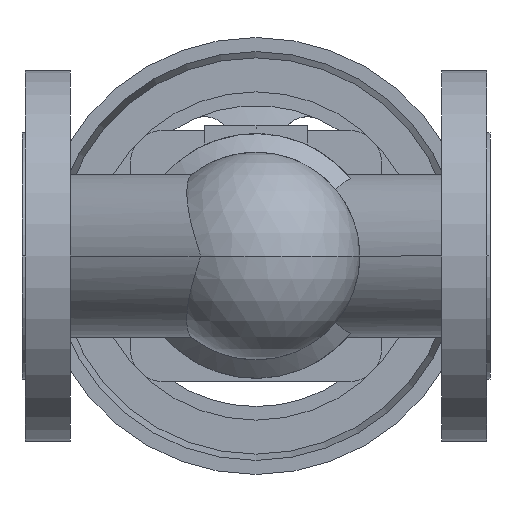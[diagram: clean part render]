
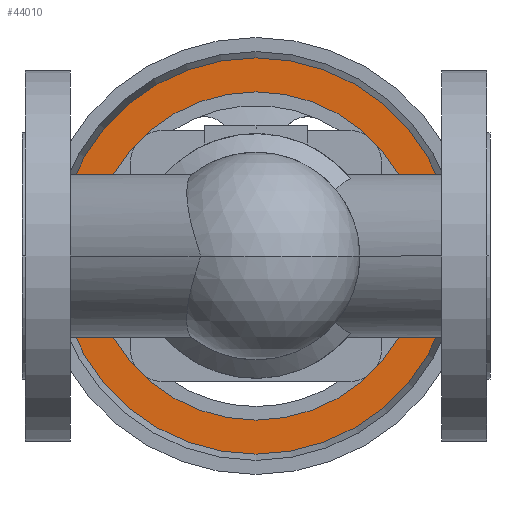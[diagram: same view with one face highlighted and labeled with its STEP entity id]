
A CAD part, front view. The second image highlights one B-rep face of the part: STEP entity #44010.
In plain terms, the highlighted planar face has unit normal (0, -1, 0).
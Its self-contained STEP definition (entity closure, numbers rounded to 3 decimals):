
#43460=CARTESIAN_POINT('',(18.462,379.5,0.));
#43470=VERTEX_POINT('',#43460);
#43550=CARTESIAN_POINT('',(222.538,379.5,0.))
;
#43560=VERTEX_POINT('',#43550);
#43590=CARTESIAN_POINT('',(120.5,379.5,0.));
#43600=DIRECTION('',(0.,1.,0.));
#43610=DIRECTION('',(-1.,0.,0.));
#43620=AXIS2_PLACEMENT_3D('',#43590,#43600,#43610);
#43630=CIRCLE('',#43620,102.038);
#43640=EDGE_CURVE('',#43470,#43560,#43630,.T.);
#43760=CARTESIAN_POINT('',(27.231,379.5,0.))
;
#43770=DIRECTION('',(0.,-1.,0.));
#43780=DIRECTION('',(1.,0.,0.));
#43790=AXIS2_PLACEMENT_3D('',#43760,#43770,#43780);
#43800=PLANE('',#43790);
#43810=EDGE_CURVE('',#43560,#43470,#43630,.T.);
#43820=ORIENTED_EDGE('',*,*,#43810,.F.);
#43830=ORIENTED_EDGE('',*,*,#43640,.F.);
#43840=EDGE_LOOP('',(#43830,#43820));
#43850=FACE_OUTER_BOUND('',#43840,.T.);
#43860=CARTESIAN_POINT('',(120.5,379.5,0.));
#43870=DIRECTION('',(0.,1.,0.));
#43880=DIRECTION('',(-1.,0.,0.));
#43890=AXIS2_PLACEMENT_3D('',#43860,#43870,#43880);
#43900=CIRCLE('',#43890,84.5);
#43910=CARTESIAN_POINT('',(205.,379.5,0.));
#43920=VERTEX_POINT('',#43910);
#43930=CARTESIAN_POINT('',(36.,379.5,0.));
#43940=VERTEX_POINT('',#43930);
#43950=EDGE_CURVE('',#43920,#43940,#43900,.T.);
#43960=ORIENTED_EDGE('',*,*,#43950,.T.);
#43970=EDGE_CURVE('',#43940,#43920,#43900,.T.);
#43980=ORIENTED_EDGE('',*,*,#43970,.T.);
#43990=EDGE_LOOP('',(#43980,#43960));
#44000=FACE_BOUND('',#43990,.T.);
#44010=ADVANCED_FACE('',(#43850,#44000),#43800,.T.);
